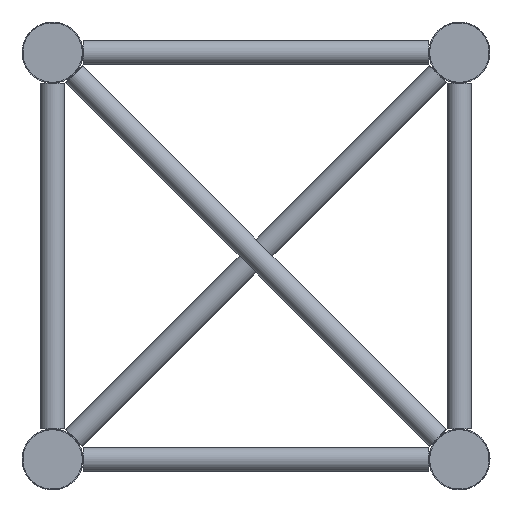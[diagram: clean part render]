
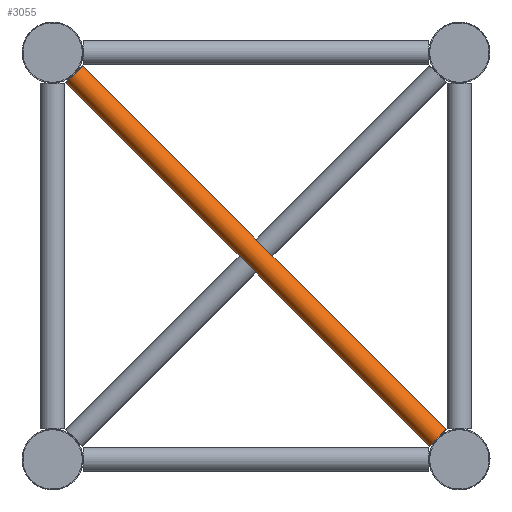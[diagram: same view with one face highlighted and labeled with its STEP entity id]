
A CAD part, left-side view. The second image highlights one B-rep face of the part: STEP entity #3055.
In plain terms, the highlighted cylindrical face has radius 10 mm (diameter 20 mm), a full revolution.
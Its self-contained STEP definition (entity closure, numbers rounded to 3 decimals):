
#457=CYLINDRICAL_SURFACE('',#3396,10.);
#595=FACE_BOUND('',#1112,.T.);
#784=FACE_OUTER_BOUND('',#1111,.T.);
#1111=EDGE_LOOP('',(#2539));
#1112=EDGE_LOOP('',(#2540));
#1180=CIRCLE('',#3395,10.);
#1181=CIRCLE('',#3397,10.);
#1440=VERTEX_POINT('',#5934);
#1441=VERTEX_POINT('',#5937);
#1796=EDGE_CURVE('',#1440,#1440,#1180,.T.);
#1797=EDGE_CURVE('',#1441,#1441,#1181,.T.);
#2539=ORIENTED_EDGE('',*,*,#1796,.T.);
#2540=ORIENTED_EDGE('',*,*,#1797,.T.);
#3055=ADVANCED_FACE('',(#784,#595),#457,.T.);
#3395=AXIS2_PLACEMENT_3D('',#5935,#4165,#4166);
#3396=AXIS2_PLACEMENT_3D('',#5936,#4167,#4168);
#3397=AXIS2_PLACEMENT_3D('',#5938,#4169,#4170);
#4165=DIRECTION('center_axis',(0.,0.707,
0.707));
#4166=DIRECTION('ref_axis',(0.,0.707,-0.707));
#4167=DIRECTION('center_axis',(0.,0.707,
0.707));
#4168=DIRECTION('ref_axis',(0.,0.707,-0.707));
#4169=DIRECTION('center_axis',(0.,-0.707,
-0.707));
#4170=DIRECTION('ref_axis',(0.,0.707,-0.707));
#5934=CARTESIAN_POINT('',(60.,10.967,-313.891));
#5935=CARTESIAN_POINT('Origin',(60.,18.038,-320.962));
#5936=CARTESIAN_POINT('Origin',(60.,169.5,-169.5));
#5937=CARTESIAN_POINT('',(60.,313.891,-10.967));
#5938=CARTESIAN_POINT('Origin',(60.,320.962,-18.038));
